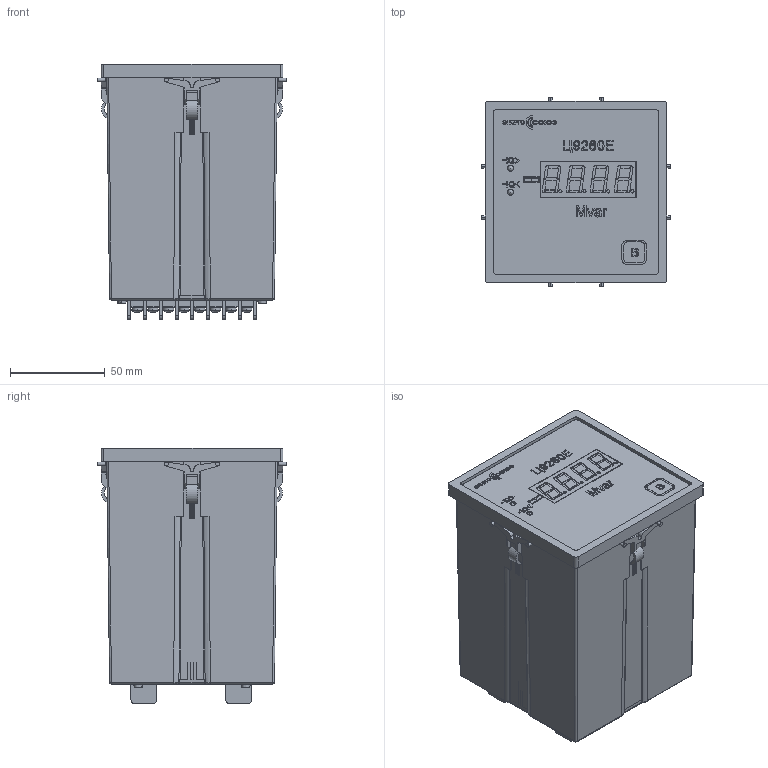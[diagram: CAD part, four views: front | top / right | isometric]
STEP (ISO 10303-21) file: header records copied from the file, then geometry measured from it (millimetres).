
FILE_DESCRIPTION (( 'STEP AP214' ), '1' );
FILE_NAME ('c9260e_98x98x138.STEP', '2025-01-16T06:06:30', ( '' ), ( '' ), 'SwSTEP 2.0', 'SolidWorks 2021', '' );
FILE_SCHEMA (( 'AUTOMOTIVE_DESIGN' ));
Length unit declared in the file: millimetre
Products named in the file (17): ramka-e-body; Äåòàëü1^Êîïèÿ sborka-FYQ-5641_sborka-c9260e_step; Êîïèÿ back-label-e^sborka-c9260e_step; FYQ-5641; Ñêîáà DG35; slotted cheese head screw_iso_ISO 1207 - M2.5 x 10 - 10N; green-led; round led(no glow)_step; îñíîâàíèå DG35; 鼁闉罻 DG35; pan head cross recess screw_iso_ISO 7045 - M3 x 4 - Z --- 4N; 齕鍕趌elc_98x98x138; Êîïèÿ sborka-FYQ-5641^sborka-c9260e_step; body_elc_98x98x138(v2.0); Êîïèÿ Êîïèÿ front-panel-e^sborka-c9260e_step; øàéáà DG35; c9260e_98x98x138
Assembly tree (45 placements, depth 3):
  Äåòàëü1^Êîïèÿ sborka-FYQ-5641_sborka-c9260e_step
  c9260e_98x98x138
    body_elc_98x98x138(v2.0)
    ramka-e-body
    Êîïèÿ Êîïèÿ front-panel-e^sborka-c9260e_step
    Êîïèÿ sborka-FYQ-5641^sborka-c9260e_step
      FYQ-5641
    round led(no glow)_step  x2
    green-led  x2
    齕鍕趌elc_98x98x138  x4
    鼁闉罻 DG35  x2
      îñíîâàíèå DG35
      Ñêîáà DG35
      pan head cross recess screw_iso_ISO 7045 - M3 x 4 - Z --- 4N
      øàéáà DG35
    slotted cheese head screw_iso_ISO 1207 - M2.5 x 10 - 10N  x4
    Êîïèÿ back-label-e^sborka-c9260e_step
Bounding box: 99.97 x 99.97 x 134.65 mm (x, y, z)
Volume: 126555.6 mm3; surface area: 173741.9 mm2
Topology: 148 solids, 148 shells, 4956 faces, 12275 edges, 7674 vertices
Faces by surface type: plane 2676, bspline 1056, cylinder 858, cone 184, sphere 110, torus 72
Entity records: 101846 total; most frequent: CARTESIAN_POINT 38043, ORIENTED_EDGE 11420, DIRECTION 9167, EDGE_CURVE 5710, VECTOR 3935, LINE 3935, VERTEX_POINT 3758, AXIS2_PLACEMENT_3D 2616
